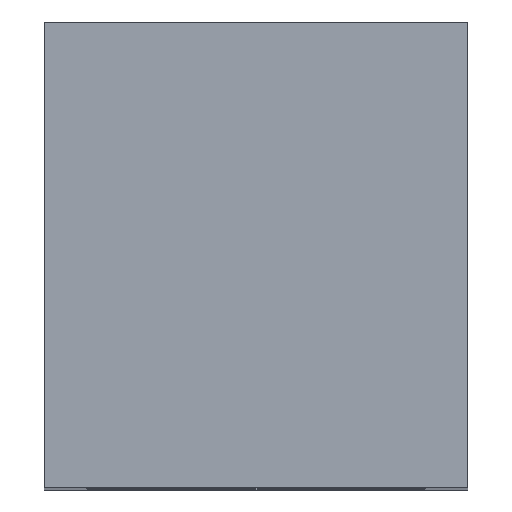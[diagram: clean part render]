
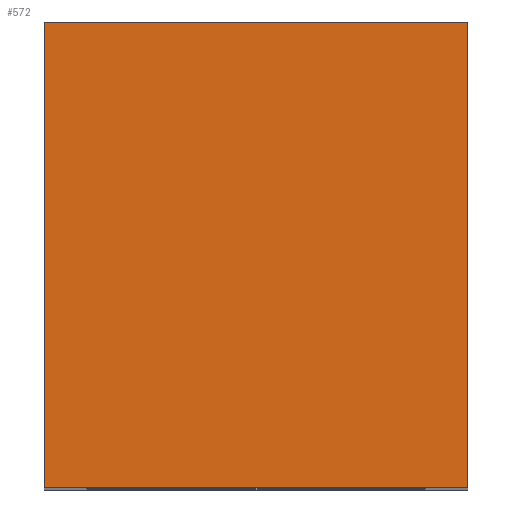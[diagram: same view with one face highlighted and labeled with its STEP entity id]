
A CAD part, top view. The second image highlights one B-rep face of the part: STEP entity #572.
In plain terms, the highlighted planar face has unit normal (0, 0, 1).
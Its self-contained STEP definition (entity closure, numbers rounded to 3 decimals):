
#20 = DIRECTION ( 'NONE',  ( 1., 0., 0. ) ) ;
#24 = LINE ( 'NONE', #337, #265 ) ;
#38 = EDGE_LOOP ( 'NONE', ( #745, #349, #234, #682 ) ) ;
#62 = CARTESIAN_POINT ( 'NONE',  ( 5., 5.5, 0. ) ) ;
#67 = CARTESIAN_POINT ( 'NONE',  ( 0., 0., 0. ) ) ;
#90 = LINE ( 'NONE', #518, #549 ) ;
#104 = CARTESIAN_POINT ( 'NONE',  ( -5., 5.5, 0. ) ) ;
#129 = VERTEX_POINT ( 'NONE', #62 ) ;
#205 = CARTESIAN_POINT ( 'NONE',  ( -5., -5.5, 0. ) ) ;
#234 = ORIENTED_EDGE ( 'NONE', *, *, #267, .T. ) ;
#242 = DIRECTION ( 'NONE',  ( -1., 0., 0. ) ) ;
#265 = VECTOR ( 'NONE', #747, 1000. ) ;
#267 = EDGE_CURVE ( 'NONE', #382, #429, #90, .T. ) ;
#282 = DIRECTION ( 'NONE',  ( -1., 0., 0. ) ) ;
#284 = VECTOR ( 'NONE', #282, 1000. ) ;
#337 = CARTESIAN_POINT ( 'NONE',  ( 5., -5.5, 0. ) ) ;
#344 = LINE ( 'NONE', #205, #388 ) ;
#349 = ORIENTED_EDGE ( 'NONE', *, *, #473, .T. ) ;
#382 = VERTEX_POINT ( 'NONE', #400 ) ;
#383 = DIRECTION ( 'NONE',  ( 0., -1., 0. ) ) ;
#388 = VECTOR ( 'NONE', #20, 1000. ) ;
#400 = CARTESIAN_POINT ( 'NONE',  ( -5., 5.5, 0. ) ) ;
#402 = CARTESIAN_POINT ( 'NONE',  ( -5., -5.5, 0. ) ) ;
#406 = EDGE_CURVE ( 'NONE', #470, #129, #24, .T. ) ;
#408 = DIRECTION ( 'NONE',  ( 0., 0., -1. ) ) ;
#429 = VERTEX_POINT ( 'NONE', #402 ) ;
#449 = LINE ( 'NONE', #104, #284 ) ;
#466 = CARTESIAN_POINT ( 'NONE',  ( 5., -5.5, 0. ) ) ;
#470 = VERTEX_POINT ( 'NONE', #466 ) ;
#472 = AXIS2_PLACEMENT_3D ( 'NONE', #67, #408, #242 ) ;
#473 = EDGE_CURVE ( 'NONE', #129, #382, #449, .T. ) ;
#483 = PLANE ( 'NONE',  #472 ) ;
#518 = CARTESIAN_POINT ( 'NONE',  ( -5., -5.5, 0. ) ) ;
#546 = FACE_OUTER_BOUND ( 'NONE', #38, .T. ) ;
#549 = VECTOR ( 'NONE', #383, 1000. ) ;
#572 = ADVANCED_FACE ( 'NONE', ( #546 ), #483, .F. ) ;
#676 = EDGE_CURVE ( 'NONE', #429, #470, #344, .T. ) ;
#682 = ORIENTED_EDGE ( 'NONE', *, *, #676, .T. ) ;
#745 = ORIENTED_EDGE ( 'NONE', *, *, #406, .T. ) ;
#747 = DIRECTION ( 'NONE',  ( 0., 1., 0. ) ) ;
